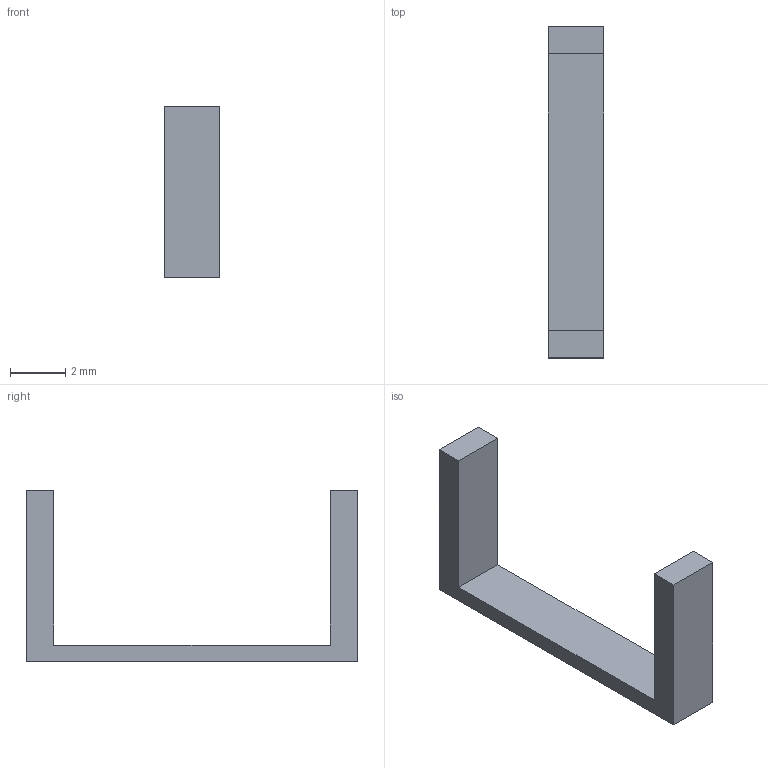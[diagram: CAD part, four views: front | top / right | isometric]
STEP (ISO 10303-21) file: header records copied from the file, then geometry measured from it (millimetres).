
FILE_DESCRIPTION (( 'STEP AP203' ), '1' );
FILE_NAME ('V11_Keeper.step', '2026-10-04T07:24:59', ( '' ), ( '' ), 'SwSTEP 2.0', 'SolidWorks 2026', '' );
FILE_SCHEMA (( 'CONFIG_CONTROL_DESIGN' ));
Length unit declared in the file: millimetre
Products named in the file (1): V11_Keeper
Bounding box: 2 x 12 x 6.2 mm (x, y, z)
Volume: 36.8 mm3; surface area: 132 mm2
Topology: 1 solids, 1 shells, 10 faces, 24 edges, 16 vertices
Faces by surface type: plane 10
Entity records: 365 total; most frequent: CARTESIAN_POINT 51, ORIENTED_EDGE 48, DIRECTION 46, VECTOR 24, LINE 24, EDGE_CURVE 24, VERTEX_POINT 16, AXIS2_PLACEMENT_3D 11
